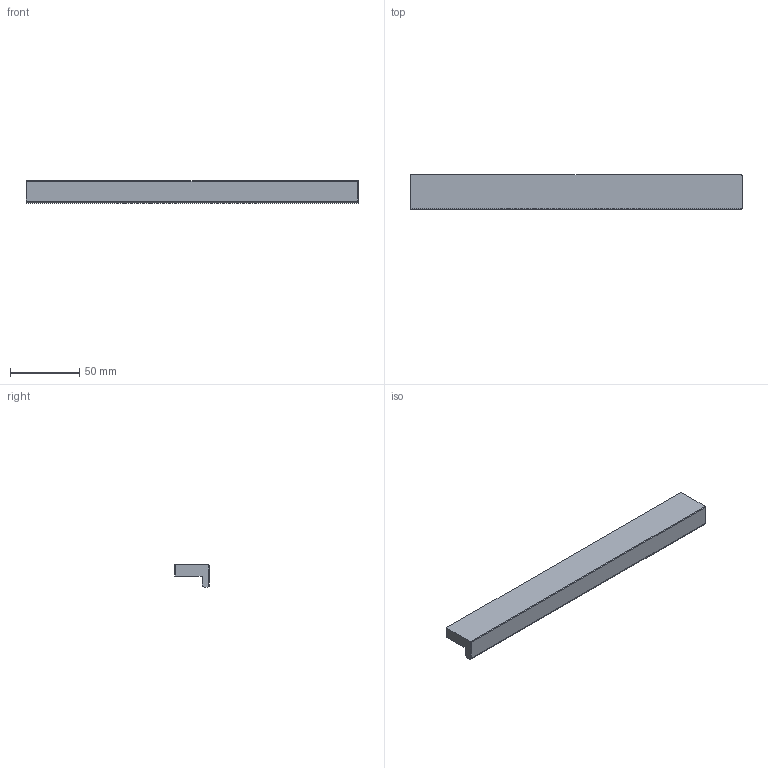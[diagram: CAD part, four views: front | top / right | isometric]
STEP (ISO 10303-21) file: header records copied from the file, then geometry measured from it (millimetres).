
FILE_DESCRIPTION( ( '' ), '1' );
FILE_NAME( 'D:/1.AUTOCAD EXPORT/Group 10/sheet_10_1/9113299.stp', '2013-10-21T08:20:05', ( '' ), ( '' ), ' ', ' ', ' ' );
FILE_SCHEMA( ( 'automotive_design' ) );
Length unit declared in the file: millimetre
Products named in the file (1): 1
Bounding box: 239 x 25 x 16 mm (x, y, z)
Volume: 56913.9 mm3; surface area: 19856 mm2
Topology: 1 solids, 1 shells, 22 faces, 52 edges, 34 vertices
Faces by surface type: cylinder 12, plane 10
Entity records: 1280 total; most frequent: CARTESIAN_POINT 123, DIRECTION 116, STYLED_ITEM 109, PRESENTATION_STYLE_ASSIGNMENT 109, COLOUR_RGB 109, ORIENTED_EDGE 104, EDGE_CURVE 52, CURVE_STYLE 52
